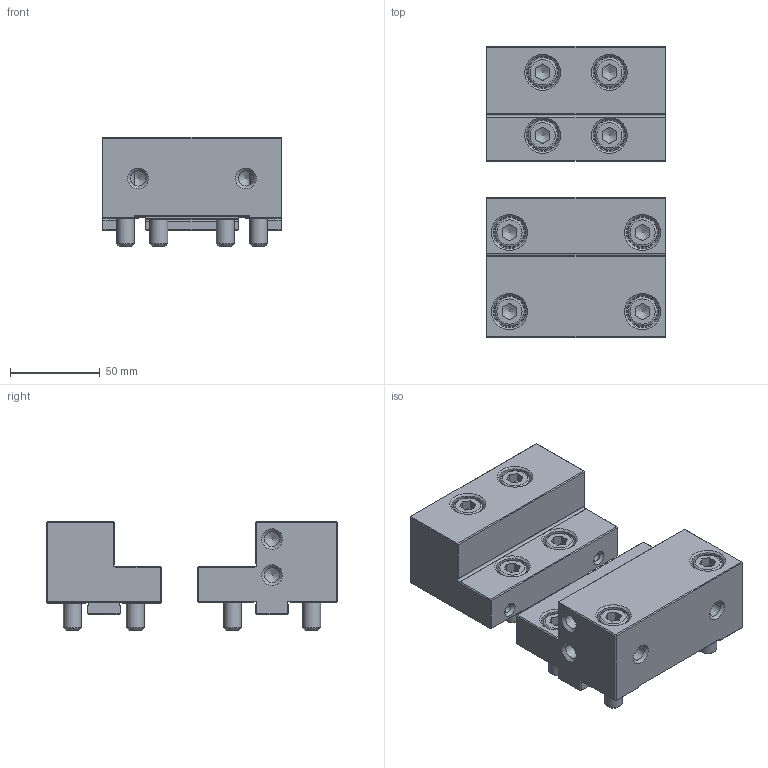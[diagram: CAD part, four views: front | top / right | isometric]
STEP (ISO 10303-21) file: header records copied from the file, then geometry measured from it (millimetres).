
FILE_DESCRIPTION(('STEP AP214'), '1');
FILE_NAME('BB.VS.100.21.030', '', ('UNSPECIFIED'), ('UNSPECIFIED'), 'C3D Converter', 'C3D Toolkit', '');
FILE_SCHEMA(('AUTOMOTIVE_DESIGN { 1 0 10303 214 3 1 1}'));
Length unit declared in the file: millimetre
Products named in the file (1): BB.VS.100.21.030 СБ
Bounding box: 100 x 162 x 61 mm (x, y, z)
Volume: 485413.7 mm3; surface area: 88087.2 mm2
Topology: 2 solids, 2 shells, 350 faces, 833 edges, 513 vertices
Faces by surface type: plane 218, cone 56, cylinder 52, torus 24
Full cylindrical faces by diameter (mm): 4.917 x4, 8.376 x8, 10 x8, 11 x8, 16 x8, 18 x8
Entity records: 14570 total; most frequent: CARTESIAN_POINT 4325, DIRECTION 1504, ORIENTED_EDGE 1382, EDGE_CURVE 691, AXIS2_PLACEMENT_3D 553, EDGE_LOOP 502, VERTEX_POINT 493, LINE 398
